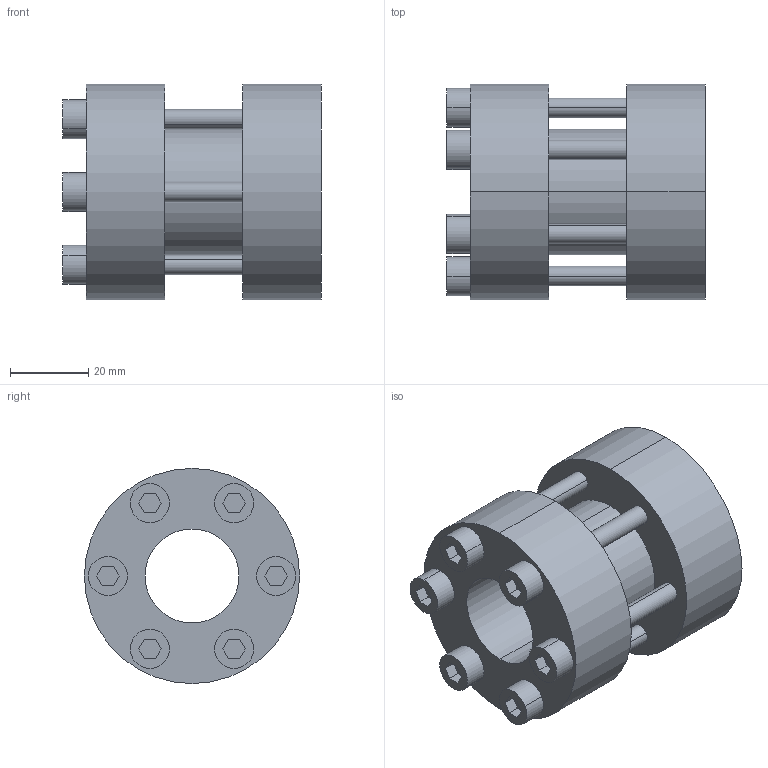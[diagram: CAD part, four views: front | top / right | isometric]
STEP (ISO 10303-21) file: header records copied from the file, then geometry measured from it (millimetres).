
FILE_DESCRIPTION (( 'STEP AP203' ), '1' );
FILE_NAME ('SM-24.STEP', '2009-09-29T17:36:45', ( 'USER' ), ( 'HOME' ), 'SwSTEP 2.0', 'SolidWorks 2007', '' );
FILE_SCHEMA (( 'CONFIG_CONTROL_DESIGN' ));
Length unit declared in the file: millimetre
Products named in the file (1): SM-24
Bounding box: 66 x 55 x 55 mm (x, y, z)
Volume: 87590.6 mm3; surface area: 30832.3 mm2
Topology: 7 solids, 7 shells, 120 faces, 276 edges, 184 vertices
Faces by surface type: plane 64, cylinder 56
Entity records: 3549 total; most frequent: DIRECTION 630, CARTESIAN_POINT 581, ORIENTED_EDGE 552, EDGE_CURVE 276, AXIS2_PLACEMENT_3D 233, VERTEX_POINT 184, VECTOR 164, LINE 164
